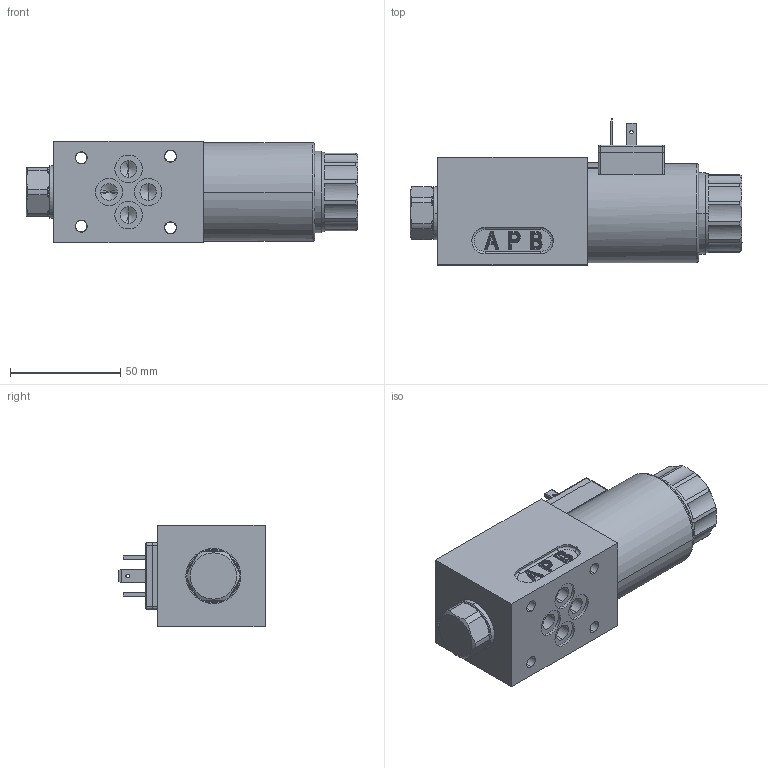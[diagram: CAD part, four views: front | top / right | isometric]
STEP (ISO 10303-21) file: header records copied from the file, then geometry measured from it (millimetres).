
FILE_DESCRIPTION (( 'STEP AP214' ), '1' );
FILE_NAME ('WDMFA06-4_2-Bside.STEP', '2017-03-17T14:54:13', ( '' ), ( '' ), 'SwSTEP 2.0', 'SolidWorks 2016', '' );
FILE_SCHEMA (( 'AUTOMOTIVE_DESIGN' ));
Length unit declared in the file: millimetre
Products named in the file (1): WDMFA06-4_2-Bside
Bounding box: 150.8 x 66.4 x 46 mm (x, y, z)
Volume: 256679.9 mm3; surface area: 41166.5 mm2
Topology: 4 solids, 5 shells, 834 faces, 2082 edges, 1255 vertices
Faces by surface type: plane 294, cylinder 285, bspline 84, torus 73, sphere 57, cone 41
Entity records: 40245 total; most frequent: CARTESIAN_POINT 11793, ORIENTED_EDGE 4056, DIRECTION 3959, EDGE_CURVE 2028, AXIS2_PLACEMENT_3D 1494, VERTEX_POINT 1254, VECTOR 971, LINE 971
